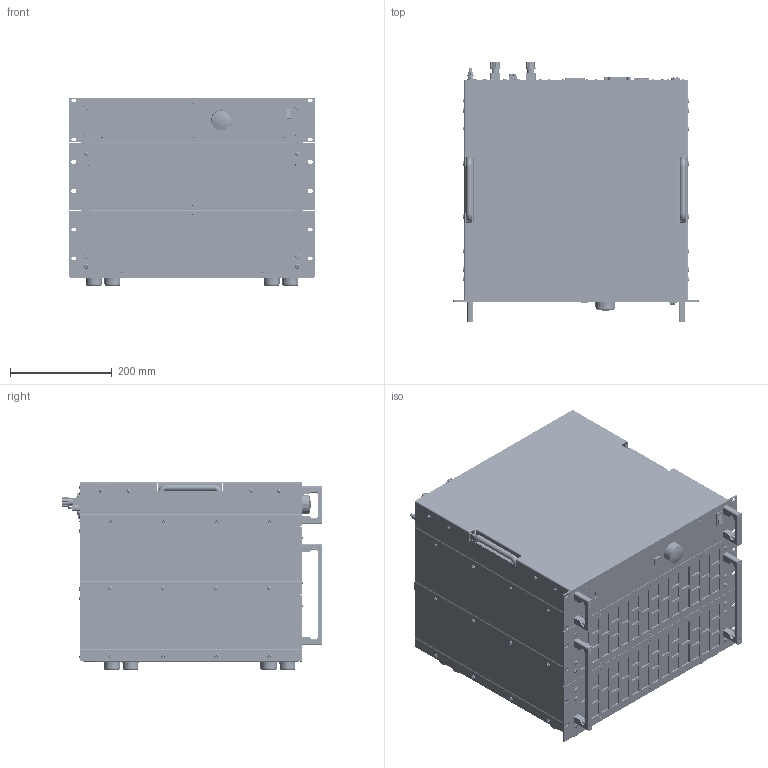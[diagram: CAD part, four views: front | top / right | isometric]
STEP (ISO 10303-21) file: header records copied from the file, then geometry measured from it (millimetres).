
FILE_DESCRIPTION(('STEP AP214'),'1');
FILE_NAME('QL_M22_19Z_8HE_BPK4_60L_3D_01.step','2022-03-16T10:22:20',(' '),(' '),'Spatial InterOp 3D',' ',' ');
FILE_SCHEMA(('AUTOMOTIVE_DESIGN { 1 0 10303 214 1 1 1 1 }'));
Length unit declared in the file: millimetre
Products named in the file (41): DIN 7985-AxM4 X 0.7x5; 3HE_Leistungsteil_mit_Gummifüssen_3D_01; *U404; *U405; *U406; *U415; AutoCreatedBlock_4329; 3HE_Leistungsteil_3D_01; *U519; *U520; *U521; AutoCreatedBlock_4355; DIN 966-A; Steuereinheit_BPK4_60L_mit_BG452_3D_01; 2121_Steuerteil_modular_Seitenteil_links_3D_02; 2122_Steuerteil_modular_Seitenteil_rechts_3D_02; A$C5EF2ED09; 3xM2.5_5x5x12; AutoCreatedBlock_4375; A$C6092449D; Frontplatte_5HE_Steuerteil_mit_Einbauten_3D; A$C60925E47; A$C60A76697; 2246_QL Rückwand Steuerteil 5HE_mit_Einbauten_3D_01; *U305; *U306; *U307; AutoCreatedBlock_4387; 2257_QL_IO Panel Standard_3D_01; 2084_IO-Port Abdeckung_3D_01; *U691; *U692; *U693; *U694; *U695; BG452_mit_MT1955_3D_01; *U564; AutoCreatedBlock_4409; AutoCreatedBlock_4365; AutoCreatedBlock_4323
Assembly tree (153 placements, depth 4):
  (unnamed)
    DIN 7985-AxM4 X 0.7x5  x4
    3HE_Leistungsteil_mit_Gummifüssen_3D_01
      *U404  x10
      *U405  x6
      *U406  x6
      *U415  x6
      AutoCreatedBlock_4329
    3HE_Leistungsteil_3D_01
      *U519  x14
      *U520  x6
      *U521  x6
      AutoCreatedBlock_4355
    DIN 966-A  x5
    Steuereinheit_BPK4_60L_mit_BG452_3D_01
      2121_Steuerteil_modular_Seitenteil_links_3D_02
      2122_Steuerteil_modular_Seitenteil_rechts_3D_02
      A$C5EF2ED09
        3xM2.5_5x5x12  x2
        AutoCreatedBlock_4375
      A$C6092449D
      Frontplatte_5HE_Steuerteil_mit_Einbauten_3D
      A$C60925E47
      A$C60A76697
      2246_QL Rückwand Steuerteil 5HE_mit_Einbauten_3D_01
        *U305
        *U306  x2
        *U307  x3
        AutoCreatedBlock_4387
      2257_QL_IO Panel Standard_3D_01
      2084_IO-Port Abdeckung_3D_01  x2
      *U691  x17
      *U692  x9
      *U693  x26
      *U694  x2
      *U695  x4
      BG452_mit_MT1955_3D_01
        *U564  x2
        AutoCreatedBlock_4409
      AutoCreatedBlock_4365
    AutoCreatedBlock_4323
Bounding box: 482.61 x 511.97 x 371.22 mm (x, y, z)
Volume: 33453068.4 mm3; surface area: 4639631.9 mm2
Topology: 421 solids, 858 shells, 27687 faces, 69612 edges, 43852 vertices
Faces by surface type: plane 12080, cone 10463, cylinder 4100, torus 451, sphere 302, bspline 269, extrusion 22
Entity records: 847657 total; most frequent: CARTESIAN_POINT 155235, DIRECTION 111587, ORIENTED_EDGE 103948, EDGE_CURVE 53380, AXIS2_PLACEMENT_3D 38426, VECTOR 34735, LINE 34713, VERTEX_POINT 33841
